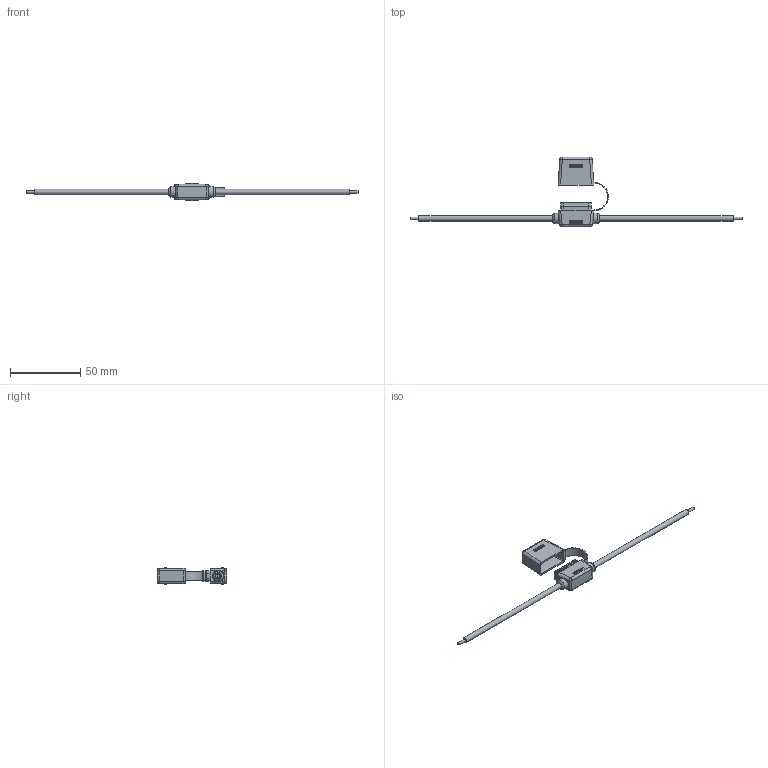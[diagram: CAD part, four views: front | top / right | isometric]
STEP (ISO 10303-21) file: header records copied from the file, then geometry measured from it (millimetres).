
FILE_DESCRIPTION(/* description */ (''),/* implementation_level */ '2;1');
FILE_NAME(/* name */ 'C:\Users\Hani\Desktop\work\LPR-02\LPR-02.stp',/* time_stamp */ '2021-07-25T17:40:54-07:00',/* author */ ('Hani'),/* organization */ (''),/* preprocessor_version */ 'ST-DEVELOPER v17',/* originating_system */ 'Autodesk Inventor 2019',/* authorisation */ '');
FILE_SCHEMA (('AUTOMOTIVE_DESIGN { 1 0 10303 214 3 1 1 }'));
Length unit declared in the file: inch
Products named in the file (3): LPR-02_fuse_holder_assy; holder_fuse; terminal
Assembly tree (3 placements, depth 2):
  LPR-02_fuse_holder_assy
    holder_fuse
    terminal  x2
Bounding box: 236.22 x 49.53 x 12.06 mm (x, y, z)
Volume: 5180.9 mm3; surface area: 10139.4 mm2
Topology: 4 solids, 5 shells, 258 faces, 631 edges, 396 vertices
Faces by surface type: plane 112, cylinder 100, bspline 30, torus 12, cone 4
Full cylindrical faces by diameter (mm): 1.676 x2, 1.905 x2, 3.81 x2
Entity records: 7729 total; most frequent: CARTESIAN_POINT 2191, DIRECTION 1165, ORIENTED_EDGE 1118, EDGE_CURVE 559, AXIS2_PLACEMENT_3D 436, VERTEX_POINT 348, LINE 293, VECTOR 293
